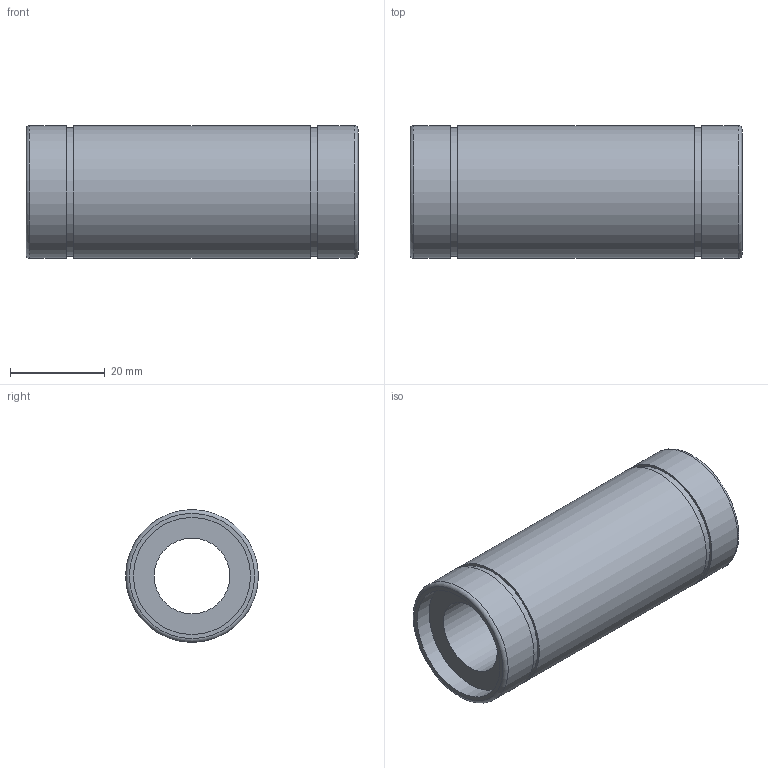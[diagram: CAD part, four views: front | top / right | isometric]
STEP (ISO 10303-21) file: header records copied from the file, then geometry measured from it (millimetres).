
FILE_DESCRIPTION( ( 'Unknown' ), '1' );
FILE_NAME( 'D:/累诀/己绕皋墨飘肺葱胶/11-04-06_档搁累己/01_府聪绢何教/LM L/LM 16L.stp', 'Unknown', ( 'Unknown' ), ( 'Unknown' ), 'PSStep 11.0', 'Unknown', ' ' );
FILE_SCHEMA( ( 'AUTOMOTIVE_DESIGN { 1 0 10303 214 1 1 1 1 }' ) );
Length unit declared in the file: millimetre
Products named in the file (1): 1
Bounding box: 70 x 28 x 28 mm (x, y, z)
Volume: 26930.4 mm3; surface area: 10797.7 mm2
Topology: 1 solids, 1 shells, 18 faces, 31 edges, 21 vertices
Faces by surface type: plane 8, cylinder 8, torus 2
Full cylindrical faces by diameter (mm): 16 x1, 24.66 x2, 27 x2, 28 x3
Entity records: 528 total; most frequent: DIRECTION 74, CARTESIAN_POINT 55, AXIS2_PLACEMENT_3D 37, EDGE_LOOP 36, ORIENTED_EDGE 36, FACE_OUTER_BOUND 28, STYLED_ITEM 18, PRESENTATION_STYLE_ASSIGNMENT 18
